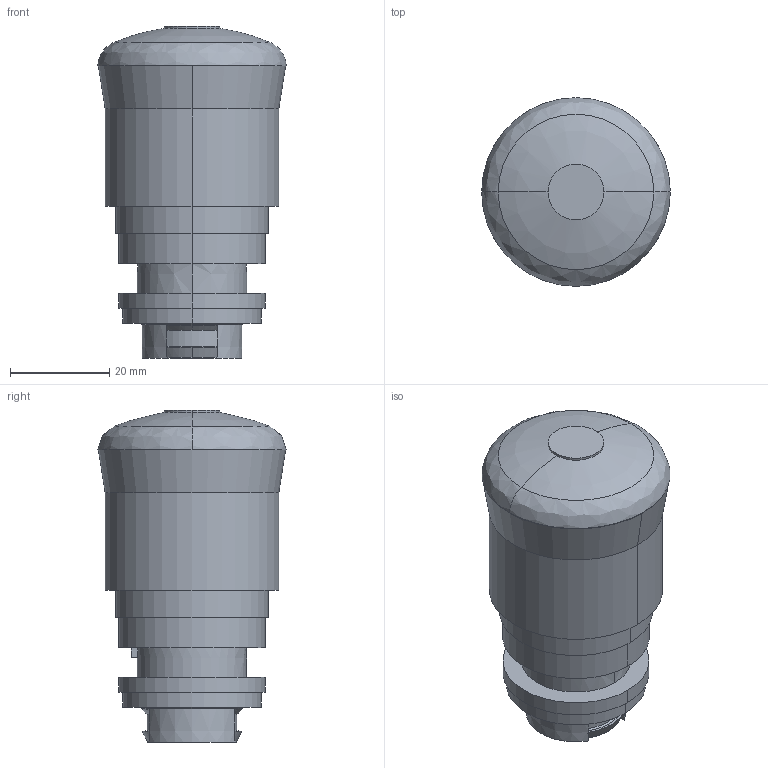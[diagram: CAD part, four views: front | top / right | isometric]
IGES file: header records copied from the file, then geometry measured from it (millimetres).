
Start section: Data from XPlus IGES,  Spatial Corp. Copyright (c) 1999-2004
Global section: file name: 271499.igs; native system:  By Spatial Corp.; preprocessor: XPlus ACIS/IGES 3.0; author: Noname; organization: Noname; date: 20120529.215423; units: millimetre
Bounding box: 38 x 38 x 66.9 mm (x, y, z)
Surface area: 8781.3 mm2 (no closed solid volume)
Topology: 0 solids, 0 shells, 68 faces, 318 edges, 318 vertices
Faces by surface type: revolution 41, extrusion 27
